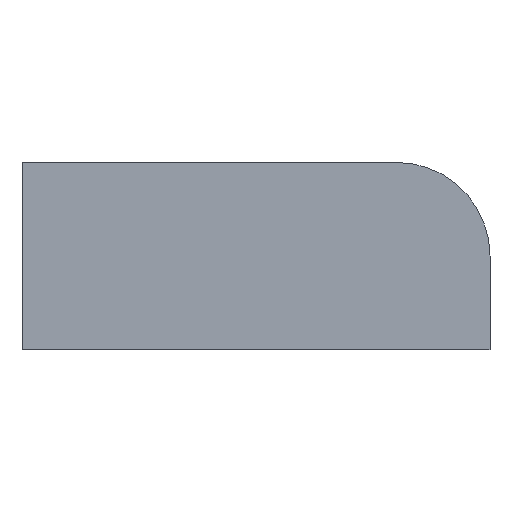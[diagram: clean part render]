
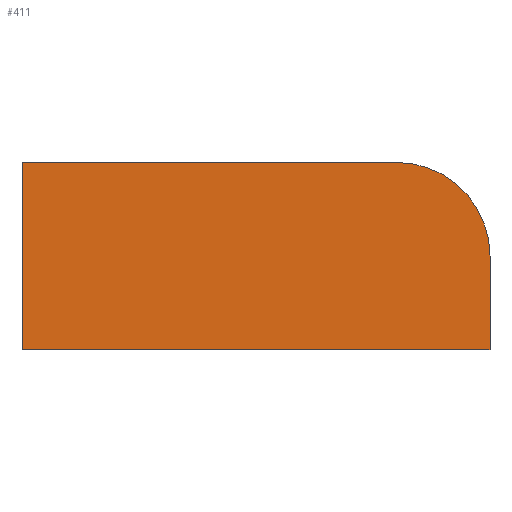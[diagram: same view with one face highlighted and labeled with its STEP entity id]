
A CAD part, front view. The second image highlights one B-rep face of the part: STEP entity #411.
In plain terms, the highlighted planar face has unit normal (0, -1, 0).
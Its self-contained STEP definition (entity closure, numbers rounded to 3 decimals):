
#23 = AXIS2_PLACEMENT_3D ( 'NONE', #114, #80, #368 ) ;
#31 = CARTESIAN_POINT ( 'NONE',  ( -5., -12.5, 4. ) ) ;
#33 = CARTESIAN_POINT ( 'NONE',  ( 5., -12.5, 4. ) ) ;
#43 = VECTOR ( 'NONE', #160, 1000. ) ;
#57 = ORIENTED_EDGE ( 'NONE', *, *, #373, .F. ) ;
#65 = VERTEX_POINT ( 'NONE', #103 ) ;
#71 = LINE ( 'NONE', #31, #43 ) ;
#76 = EDGE_CURVE ( 'NONE', #65, #320, #235, .T. ) ;
#80 = DIRECTION ( 'NONE',  ( 0., -1., 0. ) ) ;
#89 = EDGE_CURVE ( 'NONE', #270, #415, #381, .T. ) ;
#90 = VERTEX_POINT ( 'NONE', #141 ) ;
#95 = FACE_OUTER_BOUND ( 'NONE', #260, .T. ) ;
#103 = CARTESIAN_POINT ( 'NONE',  ( -5., -12.5, 4. ) ) ;
#114 = CARTESIAN_POINT ( 'NONE',  ( 3., -12.5, 2. ) ) ;
#127 = DIRECTION ( 'NONE',  ( 0., 1., 0. ) ) ;
#141 = CARTESIAN_POINT ( 'NONE',  ( 5., -12.5, 0. ) ) ;
#150 = CARTESIAN_POINT ( 'NONE',  ( 5., -12.5, 2. ) ) ;
#152 = VECTOR ( 'NONE', #181, 1000. ) ;
#160 = DIRECTION ( 'NONE',  ( 1., 0., 0. ) ) ;
#164 = ORIENTED_EDGE ( 'NONE', *, *, #392, .F. ) ;
#181 = DIRECTION ( 'NONE',  ( 0., 0., -1. ) ) ;
#195 = DIRECTION ( 'NONE',  ( 0., 0., -1. ) ) ;
#196 = ORIENTED_EDGE ( 'NONE', *, *, #89, .T. ) ;
#198 = DIRECTION ( 'NONE',  ( 0., 0., 1. ) ) ;
#221 = AXIS2_PLACEMENT_3D ( 'NONE', #418, #127, #198 ) ;
#235 = LINE ( 'NONE', #300, #152 ) ;
#260 = EDGE_LOOP ( 'NONE', ( #164, #196, #57, #419, #414 ) ) ;
#270 = VERTEX_POINT ( 'NONE', #150 ) ;
#299 = LINE ( 'NONE', #396, #390 ) ;
#300 = CARTESIAN_POINT ( 'NONE',  ( -5., -12.5, 4. ) ) ;
#316 = EDGE_CURVE ( 'NONE', #320, #90, #299, .T. ) ;
#320 = VERTEX_POINT ( 'NONE', #327 ) ;
#325 = CARTESIAN_POINT ( 'NONE',  ( 3., -12.5, 4. ) ) ;
#327 = CARTESIAN_POINT ( 'NONE',  ( -5., -12.5, 0. ) ) ;
#335 = PLANE ( 'NONE',  #221 ) ;
#356 = LINE ( 'NONE', #33, #405 ) ;
#368 = DIRECTION ( 'NONE',  ( 0., 0., 1. ) ) ;
#373 = EDGE_CURVE ( 'NONE', #65, #415, #71, .T. ) ;
#381 = CIRCLE ( 'NONE', #23, 2. ) ;
#386 = DIRECTION ( 'NONE',  ( 1., 0., 0. ) ) ;
#390 = VECTOR ( 'NONE', #386, 1000. ) ;
#392 = EDGE_CURVE ( 'NONE', #270, #90, #356, .T. ) ;
#396 = CARTESIAN_POINT ( 'NONE',  ( -5., -12.5, 0. ) ) ;
#405 = VECTOR ( 'NONE', #195, 1000. ) ;
#411 = ADVANCED_FACE ( 'NONE', ( #95 ), #335, .F. ) ;
#414 = ORIENTED_EDGE ( 'NONE', *, *, #316, .T. ) ;
#415 = VERTEX_POINT ( 'NONE', #325 ) ;
#418 = CARTESIAN_POINT ( 'NONE',  ( -5., -12.5, 4. ) ) ;
#419 = ORIENTED_EDGE ( 'NONE', *, *, #76, .T. ) ;
